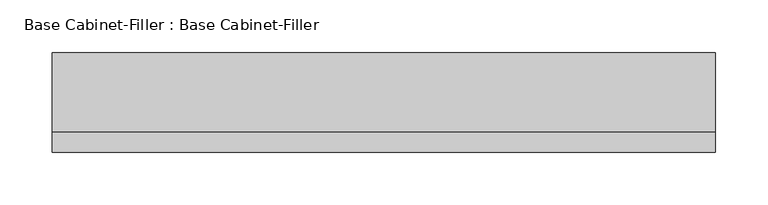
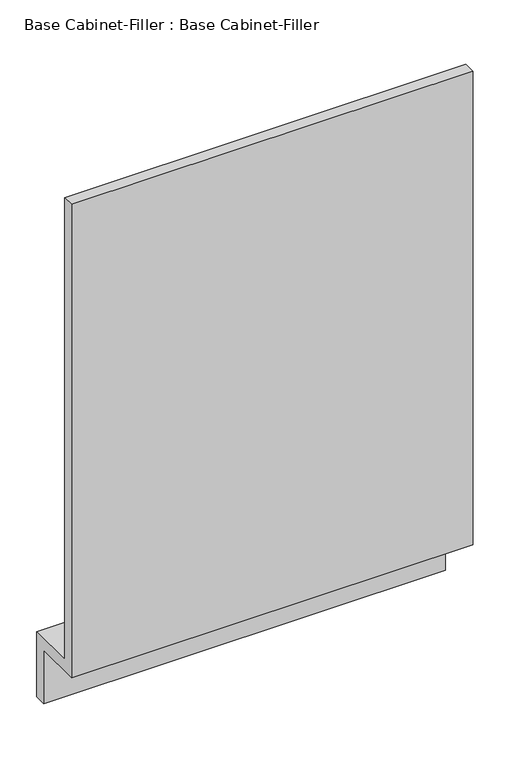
"""IFC4 building model written with IfcOpenShell, lengths in millimetres: furniture geometry, Base Cabinet-Filler : Base Cabinet-Filler."""

import ifcopenshell
import ifcopenshell.guid

model = None  # the IFC model being written
_history = None  # IfcOwnerHistory: only IFC2X3 demands one
_inside = {}  # id of a spatial element -> (the spatial element, [elements in it])
_under = {}  # id of a project, library or spatial element -> (it, [spatial elements below it])
_declared = {}  # id of a project -> (the project, [libraries it declares])
_typed = {}  # id of a type object -> (the type object, [elements of that type])
_made_of = {}  # id of a material, layer set ... -> (it, [elements and type objects made of it])


def new_model(schema):
    """Start an empty IFC model of exactly this schema.

    Asked for "IFC4X3", IfcOpenShell would pick the latest addendum, in which some entities
    have other attributes; the version numbers below select the first issue.
    IFC2X3 requires an IfcOwnerHistory on every rooted entity: one is made here for all.
    """
    global model, _history
    if schema == "IFC4X3":
        model = ifcopenshell.file(schema_version=(4, 3, 0, 0))
    else:
        model = ifcopenshell.file(schema=schema)
    _inside.clear()
    _under.clear()
    _declared.clear()
    _typed.clear()
    _made_of.clear()
    _history = None
    if model.schema == "IFC2X3":
        org = make("IfcOrganization", Name="unknown")
        user = make(
            "IfcPersonAndOrganization",
            ThePerson=make("IfcPerson", FamilyName="unknown"),
            TheOrganization=org,
        )
        app = make(
            "IfcApplication",
            ApplicationDeveloper=org,
            Version="unknown",
            ApplicationFullName="unknown",
            ApplicationIdentifier="unknown",
        )
        _history = make(
            "IfcOwnerHistory",
            OwningUser=user,
            OwningApplication=app,
            ChangeAction="ADDED",
            CreationDate=0,
        )
    return model


def make(cls, **values):
    """One entity of the class cls with the attributes given. An attribute that is None is left unset."""
    return model.create_entity(
        cls, **{name: value for name, value in values.items() if value is not None}
    )


def rooted(cls, **values):
    """An entity with a GlobalId (a new one), such as an element, a storey or a relation."""
    return make(cls, GlobalId=ifcopenshell.guid.new(), OwnerHistory=_history, **values)


def si_unit(unit_type, name, prefix=None):
    """IfcSIUnit, for example si_unit("LENGTHUNIT", "METRE", prefix="MILLI")."""
    return make("IfcSIUnit", UnitType=unit_type, Prefix=prefix, Name=name)


def assignment(units):
    """IfcUnitAssignment: the units of a project."""
    return None if units is None else make("IfcUnitAssignment", Units=units)


def point(xyz):
    """IfcCartesianPoint."""
    return None if xyz is None else make("IfcCartesianPoint", Coordinates=xyz)


def direction(xyz):
    """IfcDirection."""
    return None if xyz is None else make("IfcDirection", DirectionRatios=xyz)


def frame(location, z_axis=None, x_axis=None):
    """IfcAxis2Placement3D, a coordinate frame: its origin and axes. An axis left out is left unset."""
    return make(
        "IfcAxis2Placement3D",
        Location=point(location),
        Axis=direction(z_axis),
        RefDirection=direction(x_axis),
    )


def origin():
    """The frame at (0, 0, 0) with its axes left unset."""
    return frame((0.0, 0.0, 0.0))


def place(relative_to, where):
    """IfcLocalPlacement: puts the frame where relative to a parent placement (None: the world)."""
    return make(
        "IfcLocalPlacement", PlacementRelTo=relative_to, RelativePlacement=where
    )


def context(
    kind, dimensions, precision=None, world=None, true_north=None, identifier=None
):
    """IfcGeometricRepresentationContext, for example the 3D "Model" context."""
    return make(
        "IfcGeometricRepresentationContext",
        ContextIdentifier=identifier,
        ContextType=kind,
        CoordinateSpaceDimension=dimensions,
        Precision=precision,
        WorldCoordinateSystem=world,
        TrueNorth=true_north,
    )


def project(units=None, contexts=None):
    """IfcProject with its units and contexts."""
    return rooted(
        "IfcProject",
        Name="project",
        RepresentationContexts=contexts,
        UnitsInContext=assignment(units),
    )


def spatial(cls, under=None, at=None, **own):
    """A site, building, storey or space (cls), placed at a placement, below another one or the project."""
    s = rooted(cls, ObjectPlacement=at, **own)
    if under is not None:
        _under.setdefault(under.id(), (under, []))[1].append(s)
    return s


def polyline(points):
    """IfcPolyline through the points."""
    return make("IfcPolyline", Points=[point(p) for p in points])


def outline(outer, holes=None, kind="AREA"):
    """IfcArbitraryClosedProfileDef: a profile drawn as a closed curve; with holes, ...WithVoids."""
    if holes is None:
        return make("IfcArbitraryClosedProfileDef", ProfileType=kind, OuterCurve=outer)
    return make(
        "IfcArbitraryProfileDefWithVoids",
        ProfileType=kind,
        OuterCurve=outer,
        InnerCurves=holes,
    )


def extrude(swept, where, along, depth):
    """IfcExtrudedAreaSolid: the profile swept, set in the frame where, extruded along a direction by depth."""
    return make(
        "IfcExtrudedAreaSolid",
        SweptArea=swept,
        Position=where,
        ExtrudedDirection=direction(along),
        Depth=depth,
    )


def shape(context_of_items, identifier, shape_type, items):
    """IfcShapeRepresentation: the items that make up one representation, for example the "Body"."""
    return make(
        "IfcShapeRepresentation",
        ContextOfItems=context_of_items,
        RepresentationIdentifier=identifier,
        RepresentationType=shape_type,
        Items=items,
    )


def source(mapping_origin, context_of_items, identifier, shape_type, items):
    """IfcRepresentationMap: a shape defined once, which mapped items show again and again."""
    return make(
        "IfcRepresentationMap",
        MappingOrigin=mapping_origin,
        MappedRepresentation=shape(context_of_items, identifier, shape_type, items),
    )


def transform(
    local_origin,
    x_axis=None,
    y_axis=None,
    z_axis=None,
    scale=None,
    scale2=None,
    scale3=None,
    uniform=True,
):
    """IfcCartesianTransformationOperator3D, or its non-uniform kind. x_axis, y_axis, z_axis: its Axis1, 2, 3."""
    if uniform:
        return make(
            "IfcCartesianTransformationOperator3D",
            Axis1=direction(x_axis),
            Axis2=direction(y_axis),
            LocalOrigin=point(local_origin),
            Scale=scale,
            Axis3=direction(z_axis),
        )
    return make(
        "IfcCartesianTransformationOperator3DnonUniform",
        Axis1=direction(x_axis),
        Axis2=direction(y_axis),
        LocalOrigin=point(local_origin),
        Scale=scale,
        Axis3=direction(z_axis),
        Scale2=scale2,
        Scale3=scale3,
    )


def mapped(mapping_source, mapping_target):
    """IfcMappedItem: shows the shape of a source again, moved by a transform."""
    return make(
        "IfcMappedItem", MappingSource=mapping_source, MappingTarget=mapping_target
    )


def made_of(thing, what):
    """Note that an element or type object is made of a material, layer set ...; save() writes the relation."""
    if what is not None:
        _made_of.setdefault(what.id(), (what, []))[1].append(thing)
    return thing


def element(
    cls,
    number,
    at=None,
    inside=None,
    cuts=None,
    type_object=None,
    material=None,
    context=None,
    identifier="Body",
    shape_type=None,
    held_by="IfcProductDefinitionShape",
    body=None,
    shapes=None,
    **own,
):
    """One element of the class cls, such as IfcWall. Its Tag is "e" and its number.

    at: its placement. inside: the storey or other place that contains it. cuts: it is an
    opening in that element (IfcRelVoidsElement). A single representation is given by context,
    identifier, shape_type and body (its items); several are given by shapes. held_by: the class
    of the entity that holds the representations. save() writes the other relations.
    """
    e = rooted(cls, Tag="e%d" % number, ObjectPlacement=at, **own)
    if body is not None:
        shapes = [shape(context, identifier, shape_type, body)]
    if shapes is not None:
        e.Representation = make(held_by, Representations=shapes)
    if inside is not None:
        _inside.setdefault(inside.id(), (inside, []))[1].append(e)
    if cuts is not None:
        rooted(
            "IfcRelVoidsElement", RelatingBuildingElement=cuts, RelatedOpeningElement=e
        )
    if type_object is not None:
        _typed.setdefault(type_object.id(), (type_object, []))[1].append(e)
    return made_of(e, material)


def aggregate(whole, parts):
    """IfcRelAggregates: a whole, such as a stair, and the parts it consists of."""
    return rooted("IfcRelAggregates", RelatingObject=whole, RelatedObjects=parts)


def save(model, path):
    """Write the relations noted so far, then the file.

    IfcRelAggregates (storeys below a building ...), IfcRelContainedInSpatialStructure (elements
    in a storey), IfcRelDefinesByType, IfcRelAssociatesMaterial and IfcRelDeclares: one each for
    every whole, place, type object, material and project.
    """
    for whole, parts in _under.values():
        aggregate(whole, parts)
    for where, things in _inside.values():
        rooted(
            "IfcRelContainedInSpatialStructure",
            RelatedElements=things,
            RelatingStructure=where,
        )
    for kind, things in _typed.values():
        rooted("IfcRelDefinesByType", RelatedObjects=things, RelatingType=kind)
    for what, things in _made_of.values():
        rooted("IfcRelAssociatesMaterial", RelatedObjects=things, RelatingMaterial=what)
    for by, libraries in _declared.values():
        rooted("IfcRelDeclares", RelatingContext=by, RelatedDefinitions=libraries)
    model.write(path)


def base_cabinet_filler_base_cabinet_filler_ca2a3ea1(model_context):
    return source(origin(), model_context, "Body", "SweptSolid", [
        extrude(outline(polyline([(-609.6, 88.9), (-609.6, 876.3), (-590.55, 876.3), (-590.55, 107.95), (-514.35, 107.95), (-514.35, 0.0), (-533.4, 0.0), (-533.4, 88.9), (-609.6, 88.9)])), frame((-297.3834345, 0.0, 0.0), z_axis=(1.0, 0.0, 0.0), x_axis=(0.0, 1.0, 0.0)), (0.0, 0.0, 1.0), 632.2422787),
    ])


if __name__ == "__main__":
    model = new_model("IFC4")
    model_context = context("Model", 3, world=origin())
    ifc_project = project(units=[si_unit("LENGTHUNIT", "METRE", prefix="MILLI")], contexts=[model_context])
    site = spatial("IfcSite", under=ifc_project)
    building = spatial("IfcBuilding", under=site)
    placement = place(None, origin())
    base_cabinet_filler_base_cabinet_filler_shape = base_cabinet_filler_base_cabinet_filler_ca2a3ea1(model_context)
    element("IfcFurniture", 1, ObjectType="Base Cabinet-Filler : Base Cabinet-Filler", at=placement, inside=building, context=model_context, shape_type="MappedRepresentation", body=[
        mapped(base_cabinet_filler_base_cabinet_filler_shape, transform((0.0, 0.0, 0.0), x_axis=(1.0, 0.0, 0.0), y_axis=(0.0, 1.0, 0.0), z_axis=(0.0, 0.0, 1.0))),
    ])
    save(model, "model.ifc")
